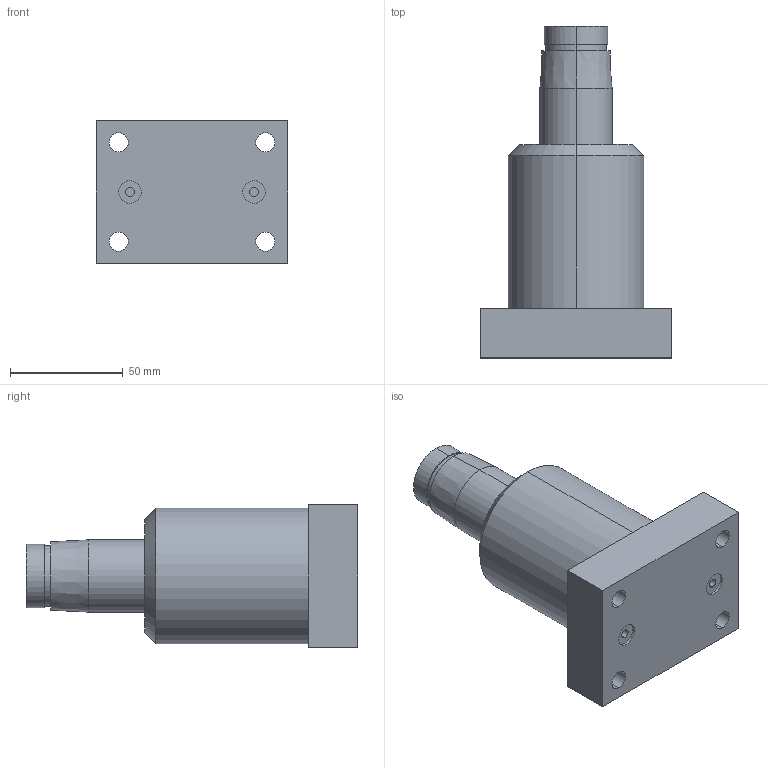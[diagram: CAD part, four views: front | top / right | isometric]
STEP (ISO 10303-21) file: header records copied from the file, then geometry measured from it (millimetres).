
FILE_DESCRIPTION (( 'STEP AP214' ), '1' );
FILE_NAME ('#HPS-40DC.STEP', '2021-10-18T01:56:40', ( '' ), ( '' ), 'SwSTEP 2.0', 'SolidWorks 2016', '' );
FILE_SCHEMA (( 'AUTOMOTIVE_DESIGN' ));
Length unit declared in the file: millimetre
Products named in the file (1): #HPS-40DC
Bounding box: 85 x 147 x 63 mm (x, y, z)
Volume: 354629.1 mm3; surface area: 37489.1 mm2
Topology: 1 solids, 1 shells, 42 faces, 92 edges, 60 vertices
Faces by surface type: cylinder 24, plane 14, cone 4
Entity records: 1270 total; most frequent: DIRECTION 230, CARTESIAN_POINT 195, ORIENTED_EDGE 184, AXIS2_PLACEMENT_3D 95, EDGE_CURVE 92, VERTEX_POINT 60, EDGE_LOOP 58, CIRCLE 52
